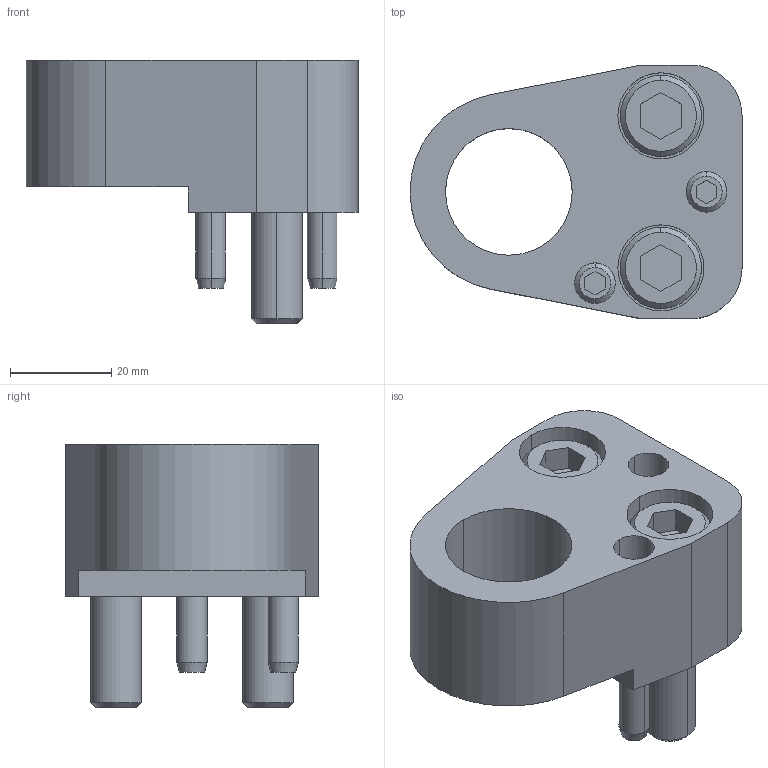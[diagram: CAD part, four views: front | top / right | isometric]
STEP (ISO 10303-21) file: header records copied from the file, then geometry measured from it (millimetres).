
FILE_DESCRIPTION(/* description */ (''),/* implementation_level */ '2;1');
FILE_NAME(/* name */ '3d_dpfr25_02822_r00.stp',/* time_stamp */ '2011-01-10T14:15:53+09:00',/* author */ ('MISUMI'),/* organization */ (''),/* preprocessor_version */ 'ST-DEVELOPER v11',/* originating_system */ 'UGS - NX 5.0',/* authorisation */ '');
FILE_SCHEMA (('CONFIG_CONTROL_DESIGN'));
Length unit declared in the file: millimetre
Products named in the file (1): 3d_dpfr25_02822_r00
Bounding box: 65.5 x 50 x 52 mm (x, y, z)
Volume: 64209.8 mm3; surface area: 22039 mm2
Topology: 7 solids, 7 shells, 134 faces, 296 edges, 189 vertices
Faces by surface type: plane 61, cylinder 47, cone 26
Entity records: 3836 total; most frequent: DIRECTION 682, CARTESIAN_POINT 671, ORIENTED_EDGE 592, EDGE_CURVE 296, AXIS2_PLACEMENT_3D 256, VERTEX_POINT 189, LINE 170, VECTOR 170
